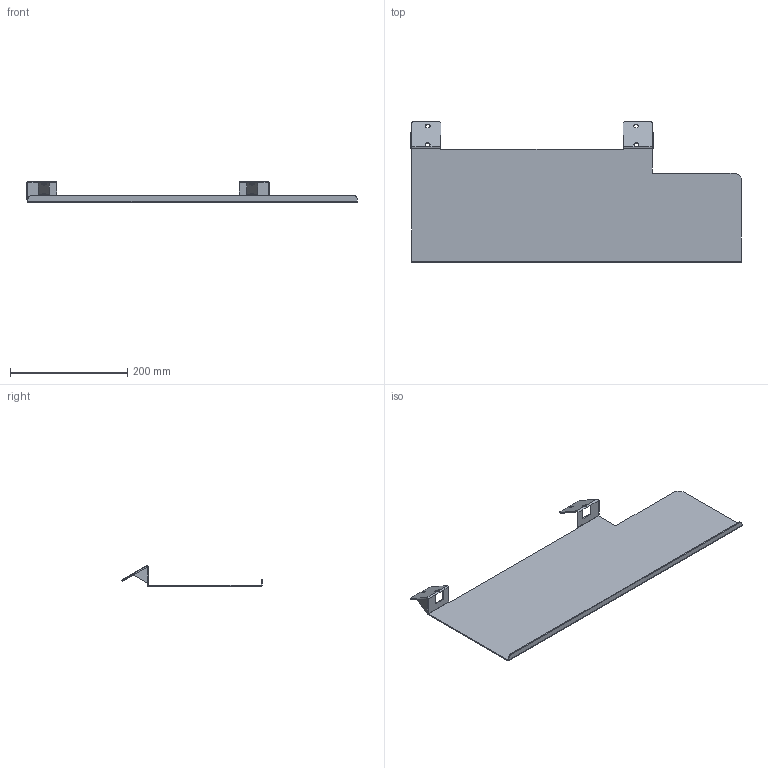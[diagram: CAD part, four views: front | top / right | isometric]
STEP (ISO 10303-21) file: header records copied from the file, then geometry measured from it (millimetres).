
FILE_DESCRIPTION (( 'STEP AP214' ), '1' );
FILE_NAME ('Keyboard Tray, KB-TRAY-xx-06R.STEP', '2019-02-08T14:02:58', ( '' ), ( '' ), 'SwSTEP 2.0', 'SolidWorks 2017', '' );
FILE_SCHEMA (( 'AUTOMOTIVE_DESIGN' ));
Length unit declared in the file: inch
Products named in the file (1): Keyboard Tray, KB-TRAY-xx-06R
Bounding box: 564.76 x 240.3 x 35.12 mm (x, y, z)
Volume: 219557.1 mm3; surface area: 235575.5 mm2
Topology: 1 solids, 1 shells, 99 faces, 247 edges, 142 vertices
Faces by surface type: plane 66, cylinder 29, bspline 4
Entity records: 3119 total; most frequent: CARTESIAN_POINT 729, ORIENTED_EDGE 494, DIRECTION 481, EDGE_CURVE 247, VECTOR 181, LINE 181, AXIS2_PLACEMENT_3D 150, VERTEX_POINT 142
